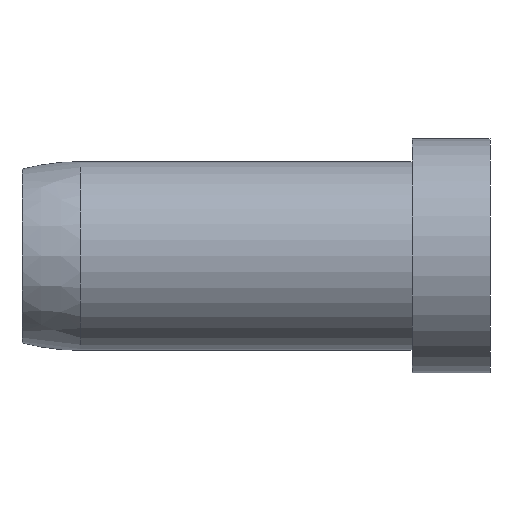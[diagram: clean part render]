
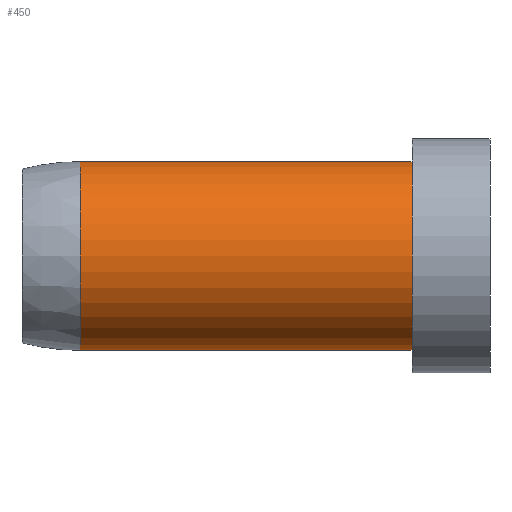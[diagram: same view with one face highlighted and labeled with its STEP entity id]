
A CAD part, front view. The second image highlights one B-rep face of the part: STEP entity #450.
In plain terms, the highlighted cylindrical face has radius 7.684 mm (diameter 15.367 mm), a partial arc.
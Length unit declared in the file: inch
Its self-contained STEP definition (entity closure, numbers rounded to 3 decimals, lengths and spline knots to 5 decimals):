
#5 = AXIS2_PLACEMENT_3D ( 'NONE', #180, #179, #325 ) ;
#49 = CARTESIAN_POINT ( 'NONE',  ( -2.25, 0., -0.3025 ) ) ;
#68 = EDGE_LOOP ( 'NONE', ( #381, #230, #186, #423 ) ) ;
#88 = VECTOR ( 'NONE', #101, 39.37008 ) ;
#89 = VERTEX_POINT ( 'NONE', #318 ) ;
#90 = CARTESIAN_POINT ( 'NONE',  ( -2.0625, 0., 0.3025 ) ) ;
#100 = CARTESIAN_POINT ( 'NONE',  ( -1., 0., 0.3025 ) ) ;
#101 = DIRECTION ( 'NONE',  ( -1., 0., 0. ) ) ;
#120 = LINE ( 'NONE', #49, #493 ) ;
#124 = CIRCLE ( 'NONE', #241, 0.3025 ) ;
#127 = DIRECTION ( 'NONE',  ( -1., 0., 0. ) ) ;
#138 = DIRECTION ( 'NONE',  ( 1., 0., 0. ) ) ;
#143 = CARTESIAN_POINT ( 'NONE',  ( -2.25, 0., 0.3025 ) ) ;
#179 = DIRECTION ( 'NONE',  ( -1., 0., 0. ) ) ;
#180 = CARTESIAN_POINT ( 'NONE',  ( -2.25, 0., 0. ) ) ;
#183 = DIRECTION ( 'NONE',  ( -1., 0., 0. ) ) ;
#186 = ORIENTED_EDGE ( 'NONE', *, *, #194, .T. ) ;
#194 = EDGE_CURVE ( 'NONE', #353, #238, #418, .T. ) ;
#210 = VERTEX_POINT ( 'NONE', #217 ) ;
#217 = CARTESIAN_POINT ( 'NONE',  ( -1., 0., -0.3025 ) ) ;
#230 = ORIENTED_EDGE ( 'NONE', *, *, #457, .T. ) ;
#234 = EDGE_CURVE ( 'NONE', #210, #89, #120, .T. ) ;
#238 = VERTEX_POINT ( 'NONE', #90 ) ;
#241 = AXIS2_PLACEMENT_3D ( 'NONE', #356, #138, #398 ) ;
#284 = FACE_OUTER_BOUND ( 'NONE', #68, .T. ) ;
#318 = CARTESIAN_POINT ( 'NONE',  ( -2.0625, 0., -0.3025 ) ) ;
#325 = DIRECTION ( 'NONE',  ( 0., 0., 1. ) ) ;
#337 = EDGE_CURVE ( 'NONE', #238, #89, #124, .T. ) ;
#353 = VERTEX_POINT ( 'NONE', #100 ) ;
#356 = CARTESIAN_POINT ( 'NONE',  ( -2.0625, 0., 0. ) ) ;
#375 = CYLINDRICAL_SURFACE ( 'NONE', #5, 0.3025 ) ;
#381 = ORIENTED_EDGE ( 'NONE', *, *, #234, .F. ) ;
#398 = DIRECTION ( 'NONE',  ( 0., 0., 1. ) ) ;
#406 = CARTESIAN_POINT ( 'NONE',  ( -1., 0., 0. ) ) ;
#418 = LINE ( 'NONE', #143, #88 ) ;
#423 = ORIENTED_EDGE ( 'NONE', *, *, #337, .T. ) ;
#448 = DIRECTION ( 'NONE',  ( 0., 0., 1. ) ) ;
#450 = ADVANCED_FACE ( 'NONE', ( #284 ), #375, .T. ) ;
#457 = EDGE_CURVE ( 'NONE', #210, #353, #479, .T. ) ;
#474 = AXIS2_PLACEMENT_3D ( 'NONE', #406, #183, #448 ) ;
#479 = CIRCLE ( 'NONE', #474, 0.3025 ) ;
#493 = VECTOR ( 'NONE', #127, 39.37008 ) ;
